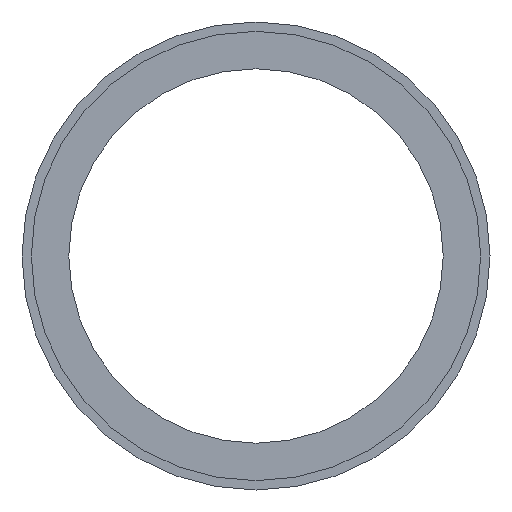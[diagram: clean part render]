
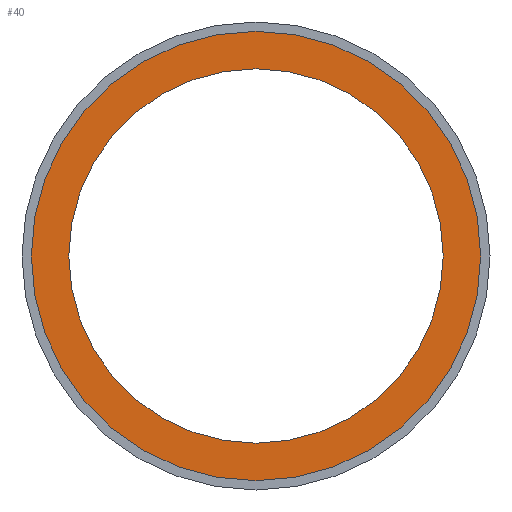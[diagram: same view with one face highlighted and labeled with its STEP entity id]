
A CAD part, front view. The second image highlights one B-rep face of the part: STEP entity #40.
In plain terms, the highlighted planar face has unit normal (0, -1, 0).
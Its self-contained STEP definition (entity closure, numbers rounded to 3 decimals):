
#40 = ADVANCED_FACE( '', ( #81, #82 ), #83, .F. );
#81 = FACE_OUTER_BOUND( '', #120, .T. );
#82 = FACE_BOUND( '', #121, .T. );
#83 = PLANE( '', #122 );
#120 = EDGE_LOOP( '', ( #161 ) );
#121 = EDGE_LOOP( '', ( #162 ) );
#122 = AXIS2_PLACEMENT_3D( '', #163, #164, #165 );
#161 = ORIENTED_EDGE( '', *, *, #191, .T. );
#162 = ORIENTED_EDGE( '', *, *, #186, .F. );
#163 = CARTESIAN_POINT( '', ( 0., 0., 12.5 ) );
#164 = DIRECTION( '', ( 0., 1., 0. ) );
#165 = DIRECTION( '', ( 0., 0., 1. ) );
#186 = EDGE_CURVE( '', #203, #203, #204, .T. );
#191 = EDGE_CURVE( '', #211, #211, #212, .T. );
#203 = VERTEX_POINT( '', #227 );
#204 = CIRCLE( '', #228, 10. );
#211 = VERTEX_POINT( '', #235 );
#212 = CIRCLE( '', #236, 12. );
#227 = CARTESIAN_POINT( '', ( 0., 0., -10. ) );
#228 = AXIS2_PLACEMENT_3D( '', #251, #252, #253 );
#235 = CARTESIAN_POINT( '', ( 0., 0., -12. ) );
#236 = AXIS2_PLACEMENT_3D( '', #260, #261, #262 );
#251 = CARTESIAN_POINT( '', ( 0., 0., 0. ) );
#252 = DIRECTION( '', ( 0., -1., 0. ) );
#253 = DIRECTION( '', ( 0., 0., -1. ) );
#260 = CARTESIAN_POINT( '', ( 0., 0., 0. ) );
#261 = DIRECTION( '', ( 0., -1., 0. ) );
#262 = DIRECTION( '', ( 0., 0., -1. ) );
